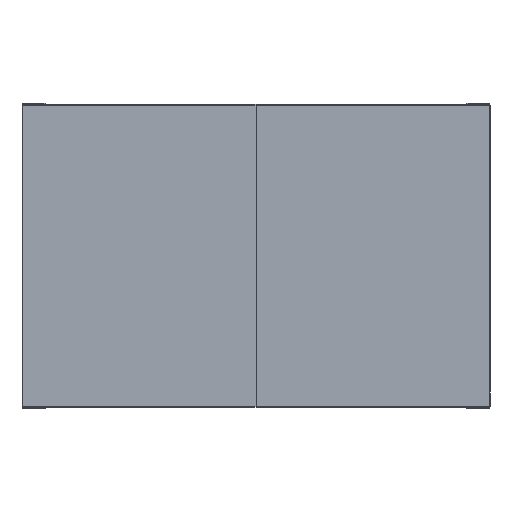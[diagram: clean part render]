
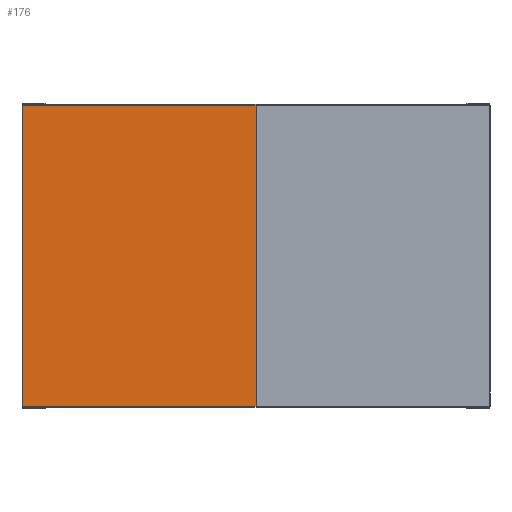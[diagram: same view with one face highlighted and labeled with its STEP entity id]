
A CAD part, top view. The second image highlights one B-rep face of the part: STEP entity #176.
In plain terms, the highlighted planar face has unit normal (0, 0, 1).
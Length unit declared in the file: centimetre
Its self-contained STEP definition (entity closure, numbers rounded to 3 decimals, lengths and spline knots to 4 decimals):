
#176=ADVANCED_FACE($,(#358),#2284,.T.);
#358=FACE_OUTER_BOUND($,#540,.T.);
#540=EDGE_LOOP($,(#1038,#1039,#1040,#1041));
#1038=ORIENTED_EDGE($,*,*,#1705,.T.);
#1039=ORIENTED_EDGE($,*,*,#1701,.F.);
#1040=ORIENTED_EDGE($,*,*,#1698,.F.);
#1041=ORIENTED_EDGE($,*,*,#1706,.F.);
#1698=EDGE_CURVE($,#2066,#2067,#2534,.T.);
#1701=EDGE_CURVE($,#2067,#2070,#2537,.T.);
#1705=EDGE_CURVE($,#2069,#2070,#2541,.T.);
#1706=EDGE_CURVE($,#2069,#2066,#2542,.T.);
#2066=VERTEX_POINT($,#4908);
#2067=VERTEX_POINT($,#4909);
#2069=VERTEX_POINT($,#4911);
#2070=VERTEX_POINT($,#4912);
#2284=PLANE($,#2936);
#2534=B_SPLINE_CURVE_WITH_KNOTS($,1,(#4852,#4853),.UNSPECIFIED.,.F.,.F.,
(2,2),(-896.,0.),.UNSPECIFIED.);
#2537=B_SPLINE_CURVE_WITH_KNOTS($,1,(#4858,#4859),.UNSPECIFIED.,.F.,.F.,
(2,2),(-1790.,-1095.),.UNSPECIFIED.);
#2541=B_SPLINE_CURVE_WITH_KNOTS($,3,(#4872,#4873,#4874,#4875),.UNSPECIFIED.,
.F.,.F.,(4,4),(0.,89.6),.UNSPECIFIED.);
#2542=B_SPLINE_CURVE_WITH_KNOTS($,1,(#4876,#4877),.UNSPECIFIED.,.F.,.F.,
(2,2),(-695.,0.),.UNSPECIFIED.);
#2936=AXIS2_PLACEMENT_3D($,#4900,#3101,$);
#3101=DIRECTION($,(0.,0.,1.));
#4852=CARTESIAN_POINT($,(-628.45,65.3,75.0514));
#4853=CARTESIAN_POINT($,(-628.45,154.9,75.0514));
#4858=CARTESIAN_POINT($,(-628.45,154.9,75.0514));
#4859=CARTESIAN_POINT($,(-558.95,154.9,75.0514));
#4872=CARTESIAN_POINT($,(-558.95,65.3,75.0514));
#4873=CARTESIAN_POINT($,(-558.95,95.1667,75.0514));
#4874=CARTESIAN_POINT($,(-558.95,125.0333,75.0514));
#4875=CARTESIAN_POINT($,(-558.95,154.9,75.0514));
#4876=CARTESIAN_POINT($,(-558.95,65.3,75.0514));
#4877=CARTESIAN_POINT($,(-628.45,65.3,75.0514));
#4900=CARTESIAN_POINT($,(-628.45,154.9,75.0514));
#4908=CARTESIAN_POINT($,(-628.45,65.3,75.0514));
#4909=CARTESIAN_POINT($,(-628.45,154.9,75.0514));
#4911=CARTESIAN_POINT($,(-558.95,65.3,75.0514));
#4912=CARTESIAN_POINT($,(-558.95,154.9,75.0514));
